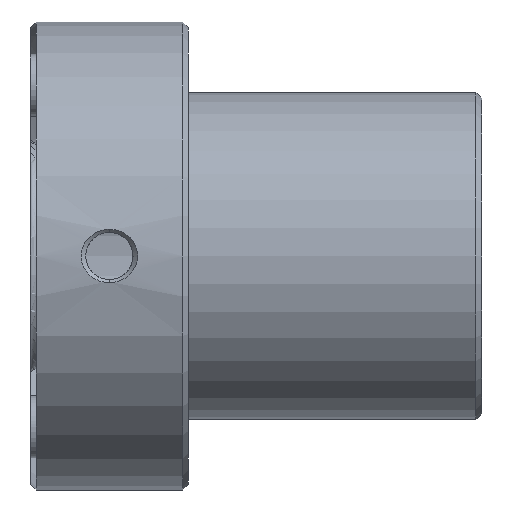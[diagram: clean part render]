
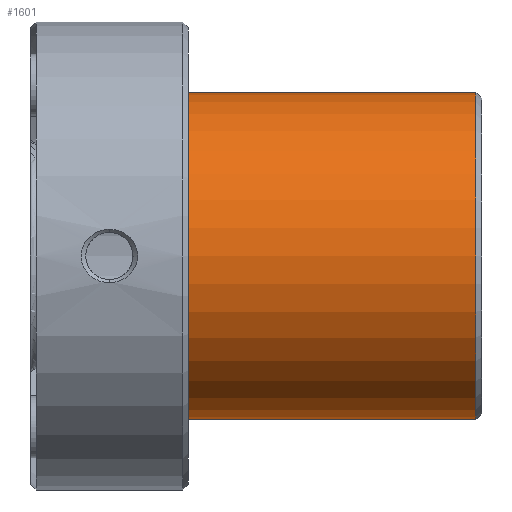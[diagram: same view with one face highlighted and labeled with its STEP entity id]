
A CAD part, front view. The second image highlights one B-rep face of the part: STEP entity #1601.
In plain terms, the highlighted cylindrical face has radius 29 mm (diameter 58 mm), a partial arc.
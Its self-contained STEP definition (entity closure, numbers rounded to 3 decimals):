
#848=CARTESIAN_POINT('Vertex',(28.,0.,-29.)) ;
#853=CARTESIAN_POINT('Axis2P3D Location',(28.,0.,0.)) ;
#857=CARTESIAN_POINT('Vertex',(28.,-29.,0.)) ;
#860=CARTESIAN_POINT('Axis2P3D Location',(28.,0.,0.)) ;
#864=CARTESIAN_POINT('Vertex',(28.,0.,29.)) ;
#1541=CARTESIAN_POINT('Line Origine',(80.,0.,29.)) ;
#1545=CARTESIAN_POINT('Vertex',(79.,0.,29.)) ;
#1559=CARTESIAN_POINT('Vertex',(79.,0.,-29.)) ;
#1562=CARTESIAN_POINT('Line Origine',(80.,0.,-29.)) ;
#1576=CARTESIAN_POINT('Axis2P3D Location',(80.,0.,0.)) ;
#1581=CARTESIAN_POINT('Axis2P3D Location',(79.,0.,0.)) ;
#1585=CARTESIAN_POINT('Vertex',(79.,-29.,0.)) ;
#1588=CARTESIAN_POINT('Axis2P3D Location',(79.,0.,0.)) ;
#854=DIRECTION('Axis2P3D Direction',(1.,0.,-0.)) ;
#861=DIRECTION('Axis2P3D Direction',(1.,0.,-0.)) ;
#1542=DIRECTION('Vector Direction',(-1.,0.,0.)) ;
#1563=DIRECTION('Vector Direction',(-1.,0.,0.)) ;
#1577=DIRECTION('Axis2P3D Direction',(-1.,-0.,-0.)) ;
#1578=DIRECTION('Axis2P3D XDirection',(0.,0.,-1.)) ;
#1582=DIRECTION('Axis2P3D Direction',(-1.,-0.,-0.)) ;
#1589=DIRECTION('Axis2P3D Direction',(-1.,-0.,-0.)) ;
#855=AXIS2_PLACEMENT_3D('Circle Axis2P3D',#853,#854,$) ;
#862=AXIS2_PLACEMENT_3D('Circle Axis2P3D',#860,#861,$) ;
#1579=AXIS2_PLACEMENT_3D('Cylinder Axis2P3D',#1576,#1577,#1578) ;
#1583=AXIS2_PLACEMENT_3D('Circle Axis2P3D',#1581,#1582,$) ;
#1590=AXIS2_PLACEMENT_3D('Circle Axis2P3D',#1588,#1589,$) ;
#1594=ORIENTED_EDGE('',*,*,#1566,.T.) ;
#1595=ORIENTED_EDGE('',*,*,#1587,.F.) ;
#1596=ORIENTED_EDGE('',*,*,#1592,.F.) ;
#1597=ORIENTED_EDGE('',*,*,#1547,.T.) ;
#1598=ORIENTED_EDGE('',*,*,#866,.T.) ;
#1599=ORIENTED_EDGE('',*,*,#859,.T.) ;
#1543=VECTOR('Line Direction',#1542,1.) ;
#1564=VECTOR('Line Direction',#1563,1.) ;
#1601=ADVANCED_FACE('346-40',(#1600),#1580,.T.) ;
#856=CIRCLE('generated circle',#855,29.) ;
#863=CIRCLE('generated circle',#862,29.) ;
#1584=CIRCLE('generated circle',#1583,29.) ;
#1591=CIRCLE('generated circle',#1590,29.) ;
#1580=CYLINDRICAL_SURFACE('generated cylinder',#1579,29.) ;
#859=EDGE_CURVE('',#858,#849,#856,.T.) ;
#866=EDGE_CURVE('',#865,#858,#863,.T.) ;
#1547=EDGE_CURVE('',#1546,#865,#1544,.T.) ;
#1566=EDGE_CURVE('',#849,#1560,#1565,.F.) ;
#1587=EDGE_CURVE('',#1586,#1560,#1584,.F.) ;
#1592=EDGE_CURVE('',#1546,#1586,#1591,.F.) ;
#1593=EDGE_LOOP('',(#1594,#1595,#1596,#1597,#1598,#1599)) ;
#1600=FACE_OUTER_BOUND('',#1593,.T.) ;
#1544=LINE('Line',#1541,#1543) ;
#1565=LINE('Line',#1562,#1564) ;
#849=VERTEX_POINT('',#848) ;
#858=VERTEX_POINT('',#857) ;
#865=VERTEX_POINT('',#864) ;
#1546=VERTEX_POINT('',#1545) ;
#1560=VERTEX_POINT('',#1559) ;
#1586=VERTEX_POINT('',#1585) ;
